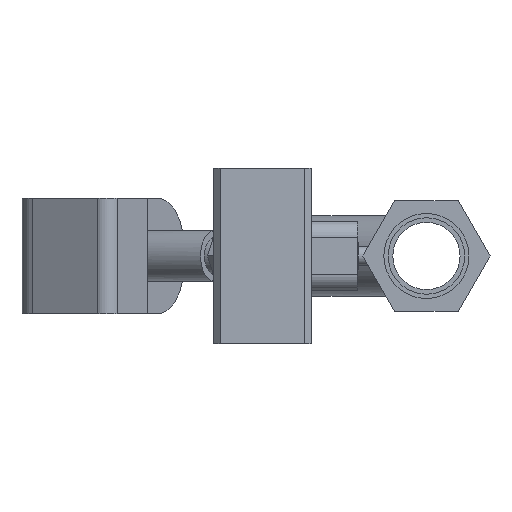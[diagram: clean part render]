
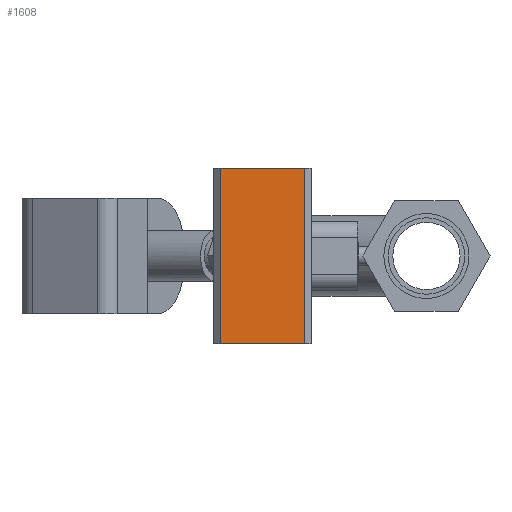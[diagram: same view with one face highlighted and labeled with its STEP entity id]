
A CAD part, left-side view. The second image highlights one B-rep face of the part: STEP entity #1608.
In plain terms, the highlighted planar face has unit normal (-1, 0, 0).
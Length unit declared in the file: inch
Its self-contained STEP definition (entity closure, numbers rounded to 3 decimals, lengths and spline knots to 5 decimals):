
#120=PLANE('',#1759);
#193=FACE_OUTER_BOUND('',#290,.T.);
#290=EDGE_LOOP('',(#1297,#1298,#1299,#1300));
#432=LINE('',#2615,#563);
#438=LINE('',#2626,#569);
#439=LINE('',#2629,#570);
#440=LINE('',#2630,#571);
#563=VECTOR('',#2136,0.3937);
#569=VECTOR('',#2144,0.3937);
#570=VECTOR('',#2147,0.3937);
#571=VECTOR('',#2148,0.3937);
#767=VERTEX_POINT('',#2612);
#768=VERTEX_POINT('',#2614);
#772=VERTEX_POINT('',#2624);
#773=VERTEX_POINT('',#2628);
#959=EDGE_CURVE('',#767,#768,#432,.T.);
#965=EDGE_CURVE('',#772,#767,#438,.T.);
#966=EDGE_CURVE('',#773,#772,#439,.T.);
#967=EDGE_CURVE('',#773,#768,#440,.T.);
#1297=ORIENTED_EDGE('',*,*,#965,.F.);
#1298=ORIENTED_EDGE('',*,*,#966,.F.);
#1299=ORIENTED_EDGE('',*,*,#967,.T.);
#1300=ORIENTED_EDGE('',*,*,#959,.F.);
#1608=ADVANCED_FACE('',(#193),#120,.T.);
#1759=AXIS2_PLACEMENT_3D('',#2627,#2145,#2146);
#2136=DIRECTION('',(0.,1.,0.));
#2144=DIRECTION('',(0.,0.,-1.));
#2145=DIRECTION('center_axis',(-1.,0.,0.));
#2146=DIRECTION('ref_axis',(0.,-1.,0.));
#2147=DIRECTION('',(0.,-1.,0.));
#2148=DIRECTION('',(0.,0.,-1.));
#2612=CARTESIAN_POINT('',(-3.9875,2.65,-1.91));
#2614=CARTESIAN_POINT('',(-3.9875,4.475,-1.91));
#2615=CARTESIAN_POINT('',(-3.9875,2.65,-1.91));
#2624=CARTESIAN_POINT('',(-3.9875,2.65,1.91));
#2626=CARTESIAN_POINT('',(-3.9875,2.65,0.));
#2627=CARTESIAN_POINT('Origin',(-3.9875,4.475,0.));
#2628=CARTESIAN_POINT('',(-3.9875,4.475,1.91));
#2629=CARTESIAN_POINT('',(-3.9875,2.65,1.91));
#2630=CARTESIAN_POINT('',(-3.9875,4.475,0.));
